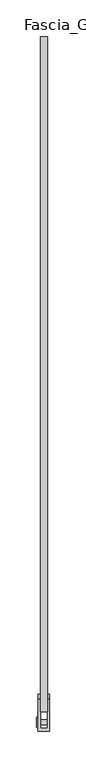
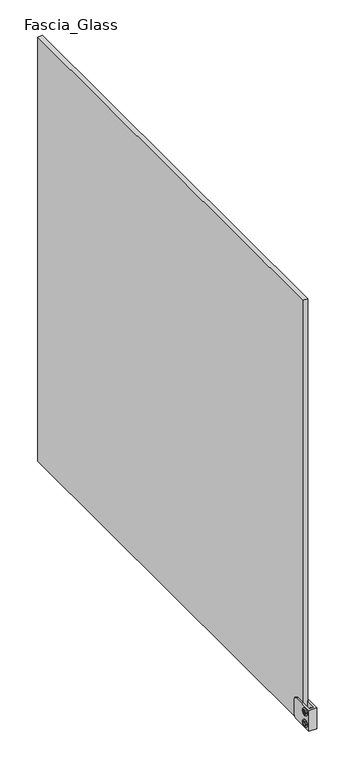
"""IFC4 building model written with IfcOpenShell, lengths in millimetres: railing geometry, Baluster-Excess-Fill-Straight-Panel-VIVA : Fascia_Glass."""

from ifc_helpers import new_model, si_unit, point, frame, origin, place, context, project, spatial, polyline, circle_curve, ellipse_curve, trimmed, outline, extrude, source, transform, mapped, element, save
from ifc_brep_helpers import plane_surface, cylinder_surface, revolved_surface, advanced_brep


def fascia_glass_5b908a92(model_context):
    return source(origin(), model_context, "Body", "SolidModel", [
        advanced_brep(
        [(36.7665, -942.705428, 138.7358896), (24.0665, -942.705428, 138.7358896), (24.0665, -935.6145362, 138.7358896), (36.7665, -935.6145362, 138.7358896), (24.0665, -946.5677712, 138.7358896), (24.0665, -931.752193, 138.7358896), (23.199388, -940.8160575, 138.7358896), (36.7665, -940.8160575, 138.7358896), (36.7665, -937.5039067, 138.7358896), (23.199388, -937.5039067, 138.7358896), (23.2316551, -946.5677712, 138.7358896), (21.9503831, -945.2864992, 138.7358896), (21.9503831, -933.033465, 138.7358896), (23.2316551, -931.752193, 138.7358896), (21.9503831, -943.4585776, 138.7358896), (21.9503831, -934.8613866, 138.7358896), (23.199388, -943.4585776, 138.7358896), (23.199388, -934.8613866, 138.7358896)],
        [
            (0, 1),
            (1, 2, circle_curve(frame((24.0665, -939.1599821, 138.7358896), z_axis=(1.0, 0.0, 0.0), x_axis=(0.0, 1.0, 0.0)), 3.5454459)),
            (2, 3),
            (3, 0, circle_curve(frame((36.7665, -939.1599821, 138.7358896), z_axis=(-1.0, 0.0, 0.0), x_axis=(0.0, 1.0, 0.0)), 3.5454459)),
            (2, 1, circle_curve(frame((24.0665, -939.1599821, 138.7358896), z_axis=(1.0, 0.0, 0.0), x_axis=(0.0, 1.0, 0.0)), 3.5454459)),
            (0, 3, circle_curve(frame((36.7665, -939.1599821, 138.7358896), z_axis=(-1.0, 0.0, 0.0), x_axis=(0.0, 1.0, 0.0)), 3.5454459)),
            (1, 4),
            (4, 5, circle_curve(frame((24.0665, -939.1599821, 138.7358896), z_axis=(1.0, 0.0, 0.0), x_axis=(0.0, 1.0, 0.0)), 7.4077891)),
            (5, 2),
            (5, 4, circle_curve(frame((24.0665, -939.1599821, 138.7358896), z_axis=(1.0, 0.0, 0.0), x_axis=(0.0, 1.0, 0.0)), 7.4077891)),
            (6, 7),
            (7, 8, circle_curve(frame((36.7665, -939.1599821, 138.7358896), z_axis=(1.0, 0.0, 0.0), x_axis=(0.0, 1.0, 0.0)), 1.6560754)),
            (8, 9),
            (9, 6, circle_curve(frame((23.199388, -939.1599821, 138.7358896), z_axis=(-1.0, 0.0, 0.0), x_axis=(0.0, 1.0, 0.0)), 1.6560754)),
            (8, 7, circle_curve(frame((36.7665, -939.1599821, 138.7358896), z_axis=(1.0, 0.0, 0.0), x_axis=(0.0, 1.0, 0.0)), 1.6560754)),
            (6, 9, circle_curve(frame((23.199388, -939.1599821, 138.7358896), z_axis=(-1.0, 0.0, 0.0), x_axis=(0.0, 1.0, 0.0)), 1.6560754)),
            (10, 11, circle_curve(frame((23.2316551, -945.2864992, 138.7358896), z_axis=(0.0, 0.0, -1.0), x_axis=(0.0, -1.0, 0.0)), 1.281272)),
            (11, 12, circle_curve(frame((21.9503831, -939.1599821, 138.7358896), z_axis=(1.0, 0.0, 0.0), x_axis=(0.0, 1.0, 0.0)), 6.1265171)),
            (12, 13, circle_curve(frame((23.2316551, -933.033465, 138.7358896), z_axis=(0.0, 0.0, -1.0), x_axis=(0.0, 1.0, 0.0)), 1.281272)),
            (13, 10, circle_curve(frame((23.2316551, -939.1599821, 138.7358896), z_axis=(-1.0, 0.0, 0.0), x_axis=(0.0, 1.0, 0.0)), 7.4077891)),
            (12, 11, circle_curve(frame((21.9503831, -939.1599821, 138.7358896), z_axis=(1.0, 0.0, 0.0), x_axis=(0.0, 1.0, 0.0)), 6.1265171)),
            (10, 13, circle_curve(frame((23.2316551, -939.1599821, 138.7358896), z_axis=(-1.0, 0.0, 0.0), x_axis=(0.0, 1.0, 0.0)), 7.4077891)),
            (11, 14),
            (14, 15, circle_curve(frame((21.9503831, -939.1599821, 138.7358896), z_axis=(1.0, 0.0, 0.0), x_axis=(0.0, 1.0, 0.0)), 4.2985955)),
            (15, 12),
            (15, 14, circle_curve(frame((21.9503831, -939.1599821, 138.7358896), z_axis=(1.0, 0.0, 0.0), x_axis=(0.0, 1.0, 0.0)), 4.2985955)),
            (4, 10),
            (13, 5),
            (7, 0),
            (3, 8),
            (14, 16),
            (16, 17, circle_curve(frame((23.199388, -939.1599821, 138.7358896), z_axis=(1.0, 0.0, 0.0), x_axis=(0.0, 1.0, 0.0)), 4.2985955)),
            (17, 15),
            (17, 16, circle_curve(frame((23.199388, -939.1599821, 138.7358896), z_axis=(1.0, 0.0, 0.0), x_axis=(0.0, 1.0, 0.0)), 4.2985955)),
            (16, 6),
            (9, 17),
        ],
        [
            cylinder_surface(frame((27.5632331, -939.1599821, 138.7358896), z_axis=(1.0, 0.0, 0.0), x_axis=(0.0, 1.0, 0.0)), 3.5454459),
            plane_surface(frame((24.0665, -939.1599821, 138.7358896), z_axis=(1.0, 0.0, 0.0), x_axis=(0.0, 1.0, 0.0))),
            revolved_surface(polyline([(36.7665, -937.5039067, 138.7358896), (23.199388, -937.5039067, 138.7358896)]), (27.5632331, -939.1599821, 138.7358896), (1.0, 0.0, 0.0)),
            revolved_surface(trimmed(ellipse_curve(frame((23.2316551, -933.033465, 138.7358896), z_axis=(0.0, 0.0, -1.0), x_axis=(0.0, 1.0, 0.0)), 1.281272, 1.281272), [point((21.9503831, -933.033465, 138.7358896))], [point((23.2316551, -931.752193, 138.7358896))], True, "CARTESIAN"), (27.5632331, -939.1599821, 138.7358896), (1.0, 0.0, 0.0)),
            plane_surface(frame((21.9503831, -939.1599821, 138.7358896), z_axis=(-1.0, 0.0, 0.0), x_axis=(0.0, 1.0, 0.0))),
            cylinder_surface(frame((27.5632331, -939.1599821, 138.7358896), z_axis=(1.0, 0.0, 0.0), x_axis=(0.0, 1.0, 0.0)), 7.4077891),
            plane_surface(frame((36.7665, -939.1599821, 138.7358896), z_axis=(1.0, 0.0, 0.0), x_axis=(0.0, 1.0, 0.0))),
            revolved_surface(polyline([(23.199388, -934.8613866, 138.7358896), (21.9503831, -934.8613866, 138.7358896)]), (27.5632331, -939.1599821, 138.7358896), (1.0, 0.0, 0.0)),
            plane_surface(frame((23.199388, -939.1599821, 138.7358896), z_axis=(-1.0, 0.0, 0.0), x_axis=(0.0, 1.0, 0.0))),
        ],
        [
            (0, [[1, 2, 3, 4]]),
            (0, [[-3, 5, -1, 6]]),
            (1, [[7, 8, 9, -2]]),
            (1, [[-9, 10, -7, -5]]),
            (2, [[11, 12, 13, 14]]),
            (2, [[-13, 15, -11, 16]]),
            (3, [[17, 18, 19, 20]]),
            (3, [[-19, 21, -17, 22]]),
            (4, [[23, 24, 25, -18]]),
            (4, [[-25, 26, -23, -21]]),
            (5, [[27, -20, 28, -8]]),
            (5, [[-28, -22, -27, -10]]),
            (6, [[29, -4, 30, -12]]),
            (6, [[-30, -6, -29, -15]]),
            (7, [[31, 32, 33, -24]]),
            (7, [[-33, 34, -31, -26]]),
            (8, [[35, -14, 36, -32]]),
            (8, [[-36, -16, -35, -34]]),
        ],
    ),
        advanced_brep(
        [(36.7665, -942.705428, 114.1296396), (24.0665, -942.705428, 114.1296396), (24.0665, -935.6145362, 114.1296396), (36.7665, -935.6145362, 114.1296396), (24.0665, -946.5677712, 114.1296396), (24.0665, -931.752193, 114.1296396), (23.199388, -940.8160575, 114.1296396), (36.7665, -940.8160575, 114.1296396), (36.7665, -937.5039067, 114.1296396), (23.199388, -937.5039067, 114.1296396), (23.2316551, -946.5677712, 114.1296396), (21.9503831, -945.2864992, 114.1296396), (21.9503831, -933.033465, 114.1296396), (23.2316551, -931.752193, 114.1296396), (21.9503831, -943.4585776, 114.1296396), (21.9503831, -934.8613866, 114.1296396), (23.199388, -943.4585776, 114.1296396), (23.199388, -934.8613866, 114.1296396)],
        [
            (0, 1),
            (1, 2, circle_curve(frame((24.0665, -939.1599821, 114.1296396), z_axis=(1.0, 0.0, 0.0), x_axis=(0.0, 1.0, 0.0)), 3.5454459)),
            (2, 3),
            (3, 0, circle_curve(frame((36.7665, -939.1599821, 114.1296396), z_axis=(-1.0, 0.0, 0.0), x_axis=(0.0, 1.0, 0.0)), 3.5454459)),
            (2, 1, circle_curve(frame((24.0665, -939.1599821, 114.1296396), z_axis=(1.0, 0.0, 0.0), x_axis=(0.0, 1.0, 0.0)), 3.5454459)),
            (0, 3, circle_curve(frame((36.7665, -939.1599821, 114.1296396), z_axis=(-1.0, 0.0, 0.0), x_axis=(0.0, 1.0, 0.0)), 3.5454459)),
            (1, 4),
            (4, 5, circle_curve(frame((24.0665, -939.1599821, 114.1296396), z_axis=(1.0, 0.0, 0.0), x_axis=(0.0, 1.0, 0.0)), 7.4077891)),
            (5, 2),
            (5, 4, circle_curve(frame((24.0665, -939.1599821, 114.1296396), z_axis=(1.0, 0.0, 0.0), x_axis=(0.0, 1.0, 0.0)), 7.4077891)),
            (6, 7),
            (7, 8, circle_curve(frame((36.7665, -939.1599821, 114.1296396), z_axis=(1.0, 0.0, 0.0), x_axis=(0.0, 1.0, 0.0)), 1.6560754)),
            (8, 9),
            (9, 6, circle_curve(frame((23.199388, -939.1599821, 114.1296396), z_axis=(-1.0, 0.0, 0.0), x_axis=(0.0, 1.0, 0.0)), 1.6560754)),
            (8, 7, circle_curve(frame((36.7665, -939.1599821, 114.1296396), z_axis=(1.0, 0.0, 0.0), x_axis=(0.0, 1.0, 0.0)), 1.6560754)),
            (6, 9, circle_curve(frame((23.199388, -939.1599821, 114.1296396), z_axis=(-1.0, 0.0, 0.0), x_axis=(0.0, 1.0, 0.0)), 1.6560754)),
            (10, 11, circle_curve(frame((23.2316551, -945.2864992, 114.1296396), z_axis=(0.0, 0.0, -1.0), x_axis=(0.0, -1.0, 0.0)), 1.281272)),
            (11, 12, circle_curve(frame((21.9503831, -939.1599821, 114.1296396), z_axis=(1.0, 0.0, 0.0), x_axis=(0.0, 1.0, 0.0)), 6.1265171)),
            (12, 13, circle_curve(frame((23.2316551, -933.033465, 114.1296396), z_axis=(0.0, 0.0, -1.0), x_axis=(0.0, 1.0, 0.0)), 1.281272)),
            (13, 10, circle_curve(frame((23.2316551, -939.1599821, 114.1296396), z_axis=(-1.0, 0.0, 0.0), x_axis=(0.0, 1.0, 0.0)), 7.4077891)),
            (12, 11, circle_curve(frame((21.9503831, -939.1599821, 114.1296396), z_axis=(1.0, 0.0, 0.0), x_axis=(0.0, 1.0, 0.0)), 6.1265171)),
            (10, 13, circle_curve(frame((23.2316551, -939.1599821, 114.1296396), z_axis=(-1.0, 0.0, 0.0), x_axis=(0.0, 1.0, 0.0)), 7.4077891)),
            (11, 14),
            (14, 15, circle_curve(frame((21.9503831, -939.1599821, 114.1296396), z_axis=(1.0, 0.0, 0.0), x_axis=(0.0, 1.0, 0.0)), 4.2985955)),
            (15, 12),
            (15, 14, circle_curve(frame((21.9503831, -939.1599821, 114.1296396), z_axis=(1.0, 0.0, 0.0), x_axis=(0.0, 1.0, 0.0)), 4.2985955)),
            (7, 0),
            (3, 8),
            (4, 10),
            (13, 5),
            (14, 16),
            (16, 17, circle_curve(frame((23.199388, -939.1599821, 114.1296396), z_axis=(1.0, 0.0, 0.0), x_axis=(0.0, 1.0, 0.0)), 4.2985955)),
            (17, 15),
            (17, 16, circle_curve(frame((23.199388, -939.1599821, 114.1296396), z_axis=(1.0, 0.0, 0.0), x_axis=(0.0, 1.0, 0.0)), 4.2985955)),
            (16, 6),
            (9, 17),
        ],
        [
            cylinder_surface(frame((27.5632331, -939.1599821, 114.1296396), z_axis=(1.0, 0.0, 0.0), x_axis=(0.0, 1.0, 0.0)), 3.5454459),
            plane_surface(frame((24.0665, -939.1599821, 114.1296396), z_axis=(1.0, 0.0, 0.0), x_axis=(0.0, 1.0, 0.0))),
            revolved_surface(polyline([(36.7665, -937.5039067, 114.1296396), (23.199388, -937.5039067, 114.1296396)]), (27.5632331, -939.1599821, 114.1296396), (1.0, 0.0, 0.0)),
            revolved_surface(trimmed(ellipse_curve(frame((23.2316551, -933.033465, 114.1296396), z_axis=(0.0, 0.0, -1.0), x_axis=(0.0, 1.0, 0.0)), 1.281272, 1.281272), [point((21.9503831, -933.033465, 114.1296396))], [point((23.2316551, -931.752193, 114.1296396))], True, "CARTESIAN"), (27.5632331, -939.1599821, 114.1296396), (1.0, 0.0, 0.0)),
            plane_surface(frame((21.9503831, -939.1599821, 114.1296396), z_axis=(-1.0, 0.0, 0.0), x_axis=(0.0, 1.0, 0.0))),
            plane_surface(frame((36.7665, -939.1599821, 114.1296396), z_axis=(1.0, 0.0, 0.0), x_axis=(0.0, 1.0, 0.0))),
            cylinder_surface(frame((27.5632331, -939.1599821, 114.1296396), z_axis=(1.0, 0.0, 0.0), x_axis=(0.0, 1.0, 0.0)), 7.4077891),
            revolved_surface(polyline([(23.199388, -934.8613866, 114.1296396), (21.9503831, -934.8613866, 114.1296396)]), (27.5632331, -939.1599821, 114.1296396), (1.0, 0.0, 0.0)),
            plane_surface(frame((23.199388, -939.1599821, 114.1296396), z_axis=(-1.0, 0.0, 0.0), x_axis=(0.0, 1.0, 0.0))),
        ],
        [
            (0, [[1, 2, 3, 4]]),
            (0, [[-3, 5, -1, 6]]),
            (1, [[7, 8, 9, -2]]),
            (1, [[-9, 10, -7, -5]]),
            (2, [[11, 12, 13, 14]]),
            (2, [[-13, 15, -11, 16]]),
            (3, [[17, 18, 19, 20]]),
            (3, [[-19, 21, -17, 22]]),
            (4, [[23, 24, 25, -18]]),
            (4, [[-25, 26, -23, -21]]),
            (5, [[27, -4, 28, -12]]),
            (5, [[-28, -6, -27, -15]]),
            (6, [[29, -20, 30, -8]]),
            (6, [[-30, -22, -29, -10]]),
            (7, [[31, 32, 33, -24]]),
            (7, [[-33, 34, -31, -26]]),
            (8, [[35, -14, 36, -32]]),
            (8, [[-36, -16, -35, -34]]),
        ],
    ),
        extrude(outline(polyline([(-943.2539104, 114.1296396), (-941.2069462, 117.6750855), (-937.113018, 117.6750855), (-935.0660538, 114.1296396), (-937.113018, 110.5841937), (-941.2069462, 110.5841937), (-943.2539104, 114.1296396)])), frame((21.7024185, 0.0, 0.0), z_axis=(1.0, 0.0, 0.0), x_axis=(0.0, 1.0, 0.0)), (0.0, 0.0, 1.0), 1.4969696),
        advanced_brep(
        [(24.0665, -951.7933269, 148.6577646), (24.0665, -907.3433269, 148.6577646), (24.0665, -900.9933269, 142.3077646), (24.0665, -900.9933269, 110.5577646), (24.0665, -907.3433269, 104.2077646), (24.0665, -951.7933269, 104.2077646), (39.9415, -951.7933269, 148.6577646), (39.9415, -951.7933269, 104.2077646), (39.9415, -907.3433269, 104.2077646), (39.9415, -900.9933269, 110.5577646), (39.9415, -900.9933269, 142.3077646), (39.9415, -907.3433269, 148.6577646), (27.2415, -907.3433269, 104.2077646), (27.2415, -947.0752465, 104.2077646), (36.7665, -947.0752465, 104.2077646), (36.7665, -907.3433269, 104.2077646), (27.2415, -947.0752465, 148.6577646), (36.7665, -947.0752465, 148.6577646), (27.2415, -900.9933269, 110.5577646), (27.2415, -900.9933269, 142.3077646), (27.2415, -907.3433269, 148.6577646), (36.7665, -907.3433269, 148.6577646), (36.7665, -900.9933269, 142.3077646), (36.7665, -900.9933269, 110.5577646)],
        [
            (0, 1),
            (1, 2, circle_curve(frame((24.0665, -907.3433269, 142.3077646), z_axis=(-1.0, 0.0, 0.0), x_axis=(0.0, 1.0, 0.0)), 6.35)),
            (2, 3),
            (3, 4, circle_curve(frame((24.0665, -907.3433269, 110.5577646), z_axis=(-1.0, 0.0, 0.0), x_axis=(0.0, 1.0, 0.0)), 6.35)),
            (4, 5),
            (5, 0),
            (6, 7),
            (7, 8),
            (8, 9, circle_curve(frame((39.9415, -907.3433269, 110.5577646), z_axis=(1.0, 0.0, 0.0), x_axis=(0.0, 1.0, 0.0)), 6.35)),
            (9, 10),
            (10, 11, circle_curve(frame((39.9415, -907.3433269, 142.3077646), z_axis=(1.0, 0.0, 0.0), x_axis=(0.0, 1.0, 0.0)), 6.35)),
            (11, 6),
            (5, 7),
            (6, 0),
            (4, 12),
            (12, 13),
            (13, 14),
            (14, 15),
            (15, 8),
            (13, 16),
            (16, 17),
            (17, 14),
            (12, 18, circle_curve(frame((27.2415, -907.3433269, 110.5577646), z_axis=(1.0, 0.0, 0.0), x_axis=(0.0, 1.0, 0.0)), 6.35)),
            (18, 19),
            (19, 20, circle_curve(frame((27.2415, -907.3433269, 142.3077646), z_axis=(1.0, 0.0, 0.0), x_axis=(0.0, 1.0, 0.0)), 6.35)),
            (20, 16),
            (17, 21),
            (21, 22, circle_curve(frame((36.7665, -907.3433269, 142.3077646), z_axis=(-1.0, 0.0, 0.0), x_axis=(0.0, 1.0, 0.0)), 6.35)),
            (22, 23),
            (23, 15, circle_curve(frame((36.7665, -907.3433269, 110.5577646), z_axis=(-1.0, 0.0, 0.0), x_axis=(0.0, 1.0, 0.0)), 6.35)),
            (23, 9),
            (3, 18),
            (22, 10),
            (2, 19),
            (21, 11),
            (1, 20),
        ],
        [
            plane_surface(frame((24.0665, -951.7933269, 104.2077646), z_axis=(-1.0, 0.0, 0.0), x_axis=(0.0, 0.0, -1.0))),
            plane_surface(frame((39.9415, -951.7933269, 104.2077646), z_axis=(1.0, 0.0, 0.0), x_axis=(0.0, 0.0, 1.0))),
            plane_surface(frame((24.0665, -951.7933269, 148.6577646), z_axis=(0.0, -1.0, 0.0), x_axis=(1.0, 0.0, 0.0))),
            plane_surface(frame((24.0665, -951.7933269, 104.2077646), z_axis=(0.0, 0.0, -1.0), x_axis=(1.0, 0.0, 0.0))),
            plane_surface(frame((36.7665, -947.0752465, 161.3577646), z_axis=(0.0, 1.0, 0.0), x_axis=(0.0, 0.0, -1.0))),
            plane_surface(frame((27.2415, -947.0752465, 161.3577646), z_axis=(1.0, 0.0, 0.0), x_axis=(0.0, 0.0, -1.0))),
            plane_surface(frame((36.7665, -888.2933269, 161.3577646), z_axis=(-1.0, 0.0, 0.0), x_axis=(0.0, 0.0, -1.0))),
            cylinder_surface(frame((39.9415, -907.3433269, 110.5577646), z_axis=(-1.0, 0.0, 0.0), x_axis=(0.0, 1.0, 0.0)), 6.35),
            plane_surface(frame((24.0665, -900.9933269, 110.5577646), z_axis=(0.0, 1.0, 0.0), x_axis=(1.0, 0.0, 0.0))),
            cylinder_surface(frame((39.9415, -907.3433269, 142.3077646), z_axis=(-1.0, 0.0, 0.0), x_axis=(0.0, 1.0, 0.0)), 6.35),
            plane_surface(frame((24.0665, -907.3433269, 148.6577646), z_axis=(0.0, 0.0, 1.0), x_axis=(1.0, 0.0, 0.0))),
        ],
        [
            (0, [[1, 2, 3, 4, 5, 6]]),
            (1, [[7, 8, 9, 10, 11, 12]]),
            (2, [[13, -7, 14, -6]]),
            (3, [[15, 16, 17, 18, 19, -8, -13, -5]]),
            (4, [[-17, 20, 21, 22]]),
            (5, [[-16, 23, 24, 25, 26, -20]]),
            (6, [[27, 28, 29, 30, -18, -22]]),
            (7, [[-19, -30, 31, -9]]),
            (7, [[32, -23, -15, -4]]),
            (8, [[-31, -29, 33, -10]]),
            (8, [[34, -24, -32, -3]]),
            (9, [[-33, -28, 35, -11]]),
            (9, [[36, -25, -34, -2]]),
            (10, [[-14, -12, -35, -27, -21, -26, -36, -1]]),
        ],
    ),
        extrude(outline(polyline([(36.7665, -1.0851207), (36.7665, -924.8502465), (27.2415, -924.8502465), (27.2415, -1.0851207), (36.7665, -1.0851207)])), frame((0.0, 0.0, 101.6), z_axis=(0.0, 0.0, 1.0), x_axis=(1.0, 0.0, 0.0)), (0.0, 0.0, 1.0), 901.7),
    ])


if __name__ == "__main__":
    model = new_model("IFC4")
    model_context = context("Model", 3, world=origin())
    ifc_project = project(units=[si_unit("LENGTHUNIT", "METRE", prefix="MILLI")], contexts=[model_context])
    site = spatial("IfcSite", under=ifc_project)
    building = spatial("IfcBuilding", under=site)
    placement = place(None, origin())
    fascia_glass_shape = fascia_glass_5b908a92(model_context)
    element("IfcRailing", 1, ObjectType="Baluster-Excess-Fill-Straight-Panel-VIVA : Fascia_Glass", at=placement, inside=building, context=model_context, shape_type="MappedRepresentation", body=[
        mapped(fascia_glass_shape, transform((0.0, 0.0, 0.0), x_axis=(1.0, 0.0, 0.0), y_axis=(0.0, 1.0, 0.0), z_axis=(0.0, 0.0, 1.0))),
    ])
    save(model, "model.ifc")
